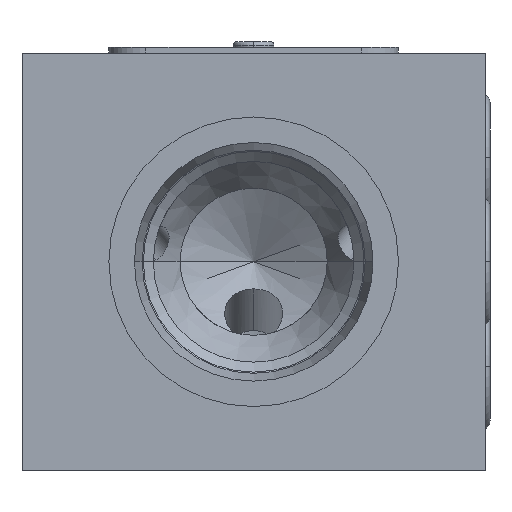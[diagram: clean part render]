
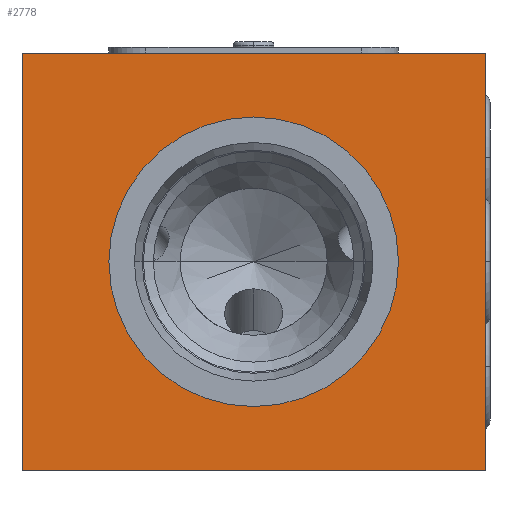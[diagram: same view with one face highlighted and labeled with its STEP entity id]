
A CAD part, left-side view. The second image highlights one B-rep face of the part: STEP entity #2778.
In plain terms, the highlighted planar face has unit normal (-1, 0, 0).
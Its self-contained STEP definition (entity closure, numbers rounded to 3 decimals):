
#55=DIRECTION('',(0.,0.,-1.));
#56=VECTOR('',#55,36.);
#57=CARTESIAN_POINT('',(0.,0.,0.));
#58=LINE('',#57,#56);
#62=DIRECTION('',(0.,1.,0.));
#63=VECTOR('',#62,40.);
#64=CARTESIAN_POINT('',(0.,0.,-36.));
#65=LINE('',#64,#63);
#69=DIRECTION('',(0.,0.,1.));
#70=VECTOR('',#69,36.);
#71=CARTESIAN_POINT('',(0.,40.,-36.));
#72=LINE('',#71,#70);
#76=DIRECTION('',(0.,-1.,0.));
#77=VECTOR('',#76,40.);
#78=CARTESIAN_POINT('',(0.,40.,0.));
#79=LINE('',#78,#77);
#83=CARTESIAN_POINT('',(0.,20.,-18.));
#84=DIRECTION('',(1.,0.,0.));
#85=DIRECTION('',(0.,-1.,0.));
#86=AXIS2_PLACEMENT_3D('',#83,#84,#85);
#91=CARTESIAN_POINT('',(0.,20.,-18.));
#92=DIRECTION('',(1.,0.,0.));
#93=DIRECTION('',(0.,1.,0.));
#94=AXIS2_PLACEMENT_3D('',#91,#92,#93);
#2505=CARTESIAN_POINT('',(0.,0.,0.));
#2506=CARTESIAN_POINT('',(0.,0.,-36.));
#2507=VERTEX_POINT('',#2505);
#2508=VERTEX_POINT('',#2506);
#2509=CARTESIAN_POINT('',(0.,40.,-36.));
#2510=VERTEX_POINT('',#2509);
#2511=CARTESIAN_POINT('',(0.,40.,0.));
#2512=VERTEX_POINT('',#2511);
#2625=CARTESIAN_POINT('',(0.,7.5,-18.));
#2626=VERTEX_POINT('',#2625);
#2627=CARTESIAN_POINT('',(0.,32.5,-18.));
#2628=VERTEX_POINT('',#2627);
#2757=CARTESIAN_POINT('',(0.,0.,0.));
#2758=DIRECTION('',(1.,0.,0.));
#2759=DIRECTION('',(0.,0.,-1.));
#2760=AXIS2_PLACEMENT_3D('',#2757,#2758,#2759);
#2761=PLANE('',#2760);
#2763=ORIENTED_EDGE('',*,*,#2762,.T.);
#2765=ORIENTED_EDGE('',*,*,#2764,.T.);
#2767=ORIENTED_EDGE('',*,*,#2766,.T.);
#2769=ORIENTED_EDGE('',*,*,#2768,.T.);
#2770=EDGE_LOOP('',(#2763,#2765,#2767,#2769));
#2771=FACE_OUTER_BOUND('',#2770,.F.);
#2773=ORIENTED_EDGE('',*,*,#2772,.F.);
#2775=ORIENTED_EDGE('',*,*,#2774,.F.);
#2776=EDGE_LOOP('',(#2773,#2775));
#2777=FACE_BOUND('',#2776,.F.);
#87=CIRCLE('',#86,12.5);
#95=CIRCLE('',#94,12.5);
#2762=EDGE_CURVE('',#2507,#2508,#58,.T.);
#2764=EDGE_CURVE('',#2508,#2510,#65,.T.);
#2766=EDGE_CURVE('',#2510,#2512,#72,.T.);
#2768=EDGE_CURVE('',#2512,#2507,#79,.T.);
#2772=EDGE_CURVE('',#2626,#2628,#87,.T.);
#2774=EDGE_CURVE('',#2628,#2626,#95,.T.);
#2778=ADVANCED_FACE('',(#2771,#2777),#2761,.F.);
